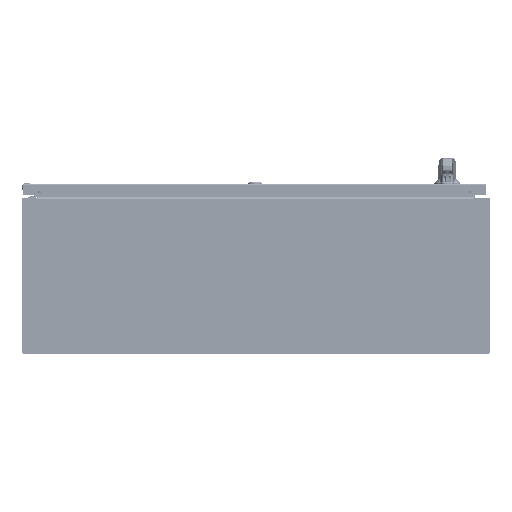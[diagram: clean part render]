
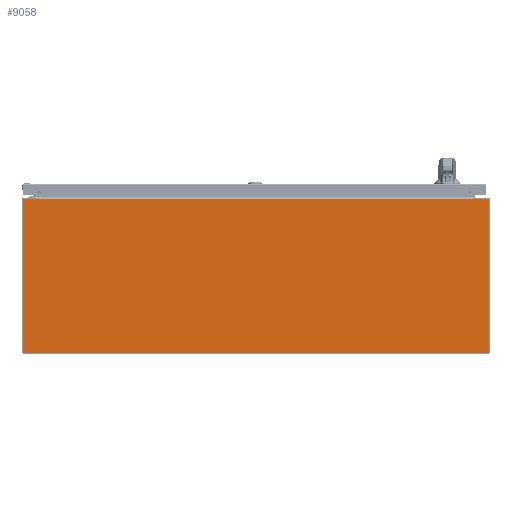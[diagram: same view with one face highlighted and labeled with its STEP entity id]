
A CAD part, front view. The second image highlights one B-rep face of the part: STEP entity #9058.
In plain terms, the highlighted planar face has unit normal (0, -1, 0).
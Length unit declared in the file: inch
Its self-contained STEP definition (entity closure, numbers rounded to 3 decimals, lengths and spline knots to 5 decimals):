
#7841=CARTESIAN_POINT('',(-17.857,0.,5.857));
#7842=DIRECTION('',(0.,-1.,0.));
#7843=DIRECTION('',(0.,0.,1.));
#7844=AXIS2_PLACEMENT_3D('',#7841,#7842,#7843);
#7849=DIRECTION('',(-1.,0.,0.));
#7850=VECTOR('',#7849,1.03388);
#7851=CARTESIAN_POINT('',(-16.82312,0.,5.937));
#7852=LINE('',#7851,#7850);
#7856=DIRECTION('',(0.174,0.,-0.985));
#7857=VECTOR('',#7856,0.05483);
#7858=CARTESIAN_POINT('',(-16.82312,0.,5.937));
#7859=LINE('',#7858,#7857);
#7863=DIRECTION('',(-1.,0.,0.));
#7864=VECTOR('',#7863,0.0156);
#7865=CARTESIAN_POINT('',(-16.798,0.,5.883));
#7866=LINE('',#7865,#7864);
#7870=DIRECTION('',(1.,0.,0.));
#7871=VECTOR('',#7870,0.0156);
#7872=CARTESIAN_POINT('',(16.798,0.,5.883));
#7873=LINE('',#7872,#7871);
#7877=DIRECTION('',(-0.174,0.,-0.985));
#7878=VECTOR('',#7877,0.05483);
#7879=CARTESIAN_POINT('',(16.82312,0.,5.937));
#7880=LINE('',#7879,#7878);
#7884=DIRECTION('',(-1.,0.,0.));
#7885=VECTOR('',#7884,1.03388);
#7886=CARTESIAN_POINT('',(17.857,0.,5.937));
#7887=LINE('',#7886,#7885);
#7891=CARTESIAN_POINT('',(17.857,0.,5.857));
#7892=DIRECTION('',(0.,-1.,0.));
#7893=DIRECTION('',(1.,0.,0.));
#7894=AXIS2_PLACEMENT_3D('',#7891,#7892,#7893);
#7899=DIRECTION('',(0.,0.,1.));
#7900=VECTOR('',#7899,11.714);
#7901=CARTESIAN_POINT('',(17.937,0.,-5.857));
#7902=LINE('',#7901,#7900);
#7906=CARTESIAN_POINT('',(17.857,0.,-5.857));
#7907=DIRECTION('',(0.,-1.,0.));
#7908=DIRECTION('',(0.,0.,-1.));
#7909=AXIS2_PLACEMENT_3D('',#7906,#7907,#7908);
#7914=DIRECTION('',(1.,0.,0.));
#7915=VECTOR('',#7914,35.714);
#7916=CARTESIAN_POINT('',(-17.857,0.,-5.937));
#7917=LINE('',#7916,#7915);
#7921=CARTESIAN_POINT('',(-17.857,0.,-5.857));
#7922=DIRECTION('',(0.,-1.,0.));
#7923=DIRECTION('',(-1.,0.,0.));
#7924=AXIS2_PLACEMENT_3D('',#7921,#7922,#7923);
#7929=DIRECTION('',(0.,0.,-1.));
#7930=VECTOR('',#7929,11.714);
#7931=CARTESIAN_POINT('',(-17.937,0.,5.857));
#7932=LINE('',#7931,#7930);
#8210=DIRECTION('',(1.,0.,0.));
#8211=VECTOR('',#8210,33.596);
#8212=CARTESIAN_POINT('',(-16.798,0.,5.883));
#8213=LINE('',#8212,#8211);
#8871=CARTESIAN_POINT('',(16.798,0.,5.883));
#8872=CARTESIAN_POINT('',(16.8136,0.,5.883));
#8873=VERTEX_POINT('',#8871);
#8874=VERTEX_POINT('',#8872);
#8875=CARTESIAN_POINT('',(16.82312,0.,5.937));
#8876=VERTEX_POINT('',#8875);
#8883=CARTESIAN_POINT('',(-16.798,0.,5.883));
#8884=CARTESIAN_POINT('',(-16.8136,0.,5.883));
#8885=VERTEX_POINT('',#8883);
#8886=VERTEX_POINT('',#8884);
#8887=CARTESIAN_POINT('',(-16.82312,0.,5.937));
#8888=VERTEX_POINT('',#8887);
#8947=CARTESIAN_POINT('',(-17.857,0.,5.937));
#8948=CARTESIAN_POINT('',(-17.937,0.,5.857));
#8949=VERTEX_POINT('',#8947);
#8950=VERTEX_POINT('',#8948);
#8955=CARTESIAN_POINT('',(-17.937,0.,-5.857));
#8956=CARTESIAN_POINT('',(-17.857,0.,-5.937));
#8957=VERTEX_POINT('',#8955);
#8958=VERTEX_POINT('',#8956);
#8963=CARTESIAN_POINT('',(17.857,0.,-5.937));
#8964=CARTESIAN_POINT('',(17.937,0.,-5.857));
#8965=VERTEX_POINT('',#8963);
#8966=VERTEX_POINT('',#8964);
#8971=CARTESIAN_POINT('',(17.937,0.,5.857));
#8972=CARTESIAN_POINT('',(17.857,0.,5.937));
#8973=VERTEX_POINT('',#8971);
#8974=VERTEX_POINT('',#8972);
#9023=CARTESIAN_POINT('',(0.,0.,0.));
#9024=DIRECTION('',(0.,-1.,0.));
#9025=DIRECTION('',(-1.,0.,0.));
#9026=AXIS2_PLACEMENT_3D('',#9023,#9024,#9025);
#9027=PLANE('',#9026);
#9029=ORIENTED_EDGE('',*,*,#9028,.F.);
#9031=ORIENTED_EDGE('',*,*,#9030,.F.);
#9033=ORIENTED_EDGE('',*,*,#9032,.T.);
#9035=ORIENTED_EDGE('',*,*,#9034,.F.);
#9037=ORIENTED_EDGE('',*,*,#9036,.T.);
#9039=ORIENTED_EDGE('',*,*,#9038,.T.);
#9041=ORIENTED_EDGE('',*,*,#9040,.F.);
#9043=ORIENTED_EDGE('',*,*,#9042,.F.);
#9045=ORIENTED_EDGE('',*,*,#9044,.F.);
#9047=ORIENTED_EDGE('',*,*,#9046,.F.);
#9049=ORIENTED_EDGE('',*,*,#9048,.F.);
#9051=ORIENTED_EDGE('',*,*,#9050,.F.);
#9053=ORIENTED_EDGE('',*,*,#9052,.F.);
#9055=ORIENTED_EDGE('',*,*,#9054,.F.);
#9056=EDGE_LOOP('',(#9029,#9031,#9033,#9035,#9037,#9039,#9041,#9043,#9045,#9047,
#9049,#9051,#9053,#9055));
#9057=FACE_OUTER_BOUND('',#9056,.F.);
#7845=CIRCLE('',#7844,0.08);
#7895=CIRCLE('',#7894,0.08);
#7910=CIRCLE('',#7909,0.08);
#7925=CIRCLE('',#7924,0.08);
#9028=EDGE_CURVE('',#8949,#8950,#7845,.T.);
#9030=EDGE_CURVE('',#8888,#8949,#7852,.T.);
#9032=EDGE_CURVE('',#8888,#8886,#7859,.T.);
#9034=EDGE_CURVE('',#8885,#8886,#7866,.T.);
#9036=EDGE_CURVE('',#8885,#8873,#8213,.T.);
#9038=EDGE_CURVE('',#8873,#8874,#7873,.T.);
#9040=EDGE_CURVE('',#8876,#8874,#7880,.T.);
#9042=EDGE_CURVE('',#8974,#8876,#7887,.T.);
#9044=EDGE_CURVE('',#8973,#8974,#7895,.T.);
#9046=EDGE_CURVE('',#8966,#8973,#7902,.T.);
#9048=EDGE_CURVE('',#8965,#8966,#7910,.T.);
#9050=EDGE_CURVE('',#8958,#8965,#7917,.T.);
#9052=EDGE_CURVE('',#8957,#8958,#7925,.T.);
#9054=EDGE_CURVE('',#8950,#8957,#7932,.T.);
#9058=ADVANCED_FACE('',(#9057),#9027,.T.);
